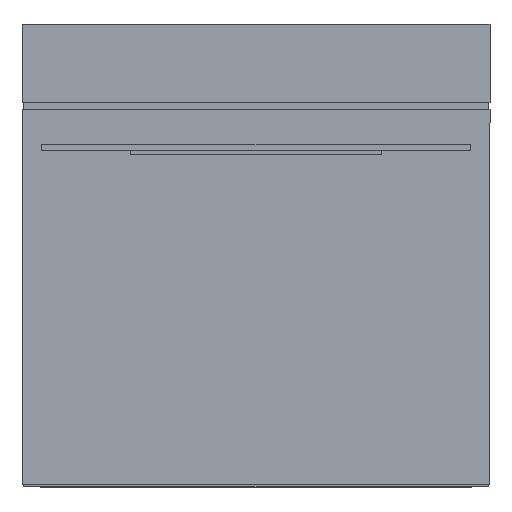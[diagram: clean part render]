
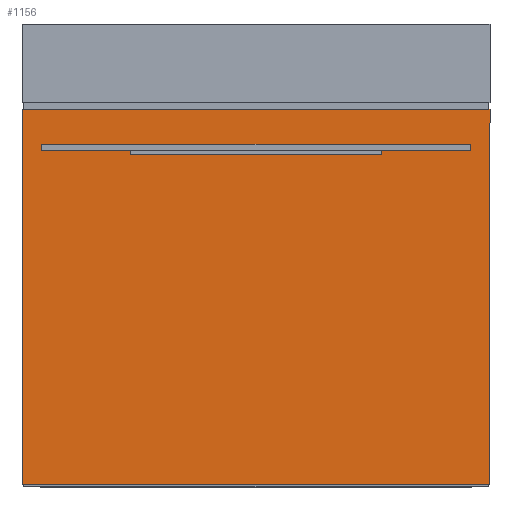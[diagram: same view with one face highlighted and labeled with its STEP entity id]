
A CAD part, front view. The second image highlights one B-rep face of the part: STEP entity #1156.
In plain terms, the highlighted planar face has unit normal (0, -1, 0).
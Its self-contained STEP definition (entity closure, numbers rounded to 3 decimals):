
#62=ORIENTED_EDGE('',*,*,#327,.T.);
#63=ORIENTED_EDGE('',*,*,#328,.T.);
#64=ORIENTED_EDGE('',*,*,#329,.F.);
#65=ORIENTED_EDGE('',*,*,#330,.T.);
#66=ORIENTED_EDGE('',*,*,#331,.F.);
#67=ORIENTED_EDGE('',*,*,#320,.F.);
#68=ORIENTED_EDGE('',*,*,#323,.T.);
#69=ORIENTED_EDGE('',*,*,#326,.T.);
#320=EDGE_CURVE('',#455,#456,#549,.T.);
#323=EDGE_CURVE('',#455,#457,#552,.T.);
#326=EDGE_CURVE('',#457,#458,#555,.T.);
#327=EDGE_CURVE('',#459,#460,#556,.T.);
#328=EDGE_CURVE('',#460,#461,#557,.T.);
#329=EDGE_CURVE('',#462,#461,#558,.T.);
#330=EDGE_CURVE('',#462,#459,#559,.T.);
#331=EDGE_CURVE('',#456,#458,#560,.T.);
#455=VERTEX_POINT('',#1562);
#456=VERTEX_POINT('',#1563);
#457=VERTEX_POINT('',#1568);
#458=VERTEX_POINT('',#1572);
#459=VERTEX_POINT('',#1576);
#460=VERTEX_POINT('',#1577);
#461=VERTEX_POINT('',#1579);
#462=VERTEX_POINT('',#1581);
#549=LINE('',#1561,#669);
#552=LINE('',#1567,#672);
#555=LINE('',#1573,#675);
#556=LINE('',#1575,#676);
#557=LINE('',#1578,#677);
#558=LINE('',#1580,#678);
#559=LINE('',#1582,#679);
#560=LINE('',#1583,#680);
#669=VECTOR('',#1298,1000.);
#672=VECTOR('',#1303,1000.);
#675=VECTOR('',#1308,1000.);
#676=VECTOR('',#1311,1000.);
#677=VECTOR('',#1312,1000.);
#678=VECTOR('',#1313,1000.);
#679=VECTOR('',#1314,1000.);
#680=VECTOR('',#1315,1000.);
#789=EDGE_LOOP('',(#62,#63,#64,#65));
#790=EDGE_LOOP('',(#66,#67,#68,#69));
#853=FACE_BOUND('',#789,.T.);
#854=FACE_BOUND('',#790,.T.);
#920=PLANE('',#1222);
#1156=ADVANCED_FACE('',(#853,#854),#920,.T.);
#1222=AXIS2_PLACEMENT_3D('',#1574,#1309,#1310);
#1298=DIRECTION('',(0.,0.,1.));
#1303=DIRECTION('',(1.,0.,0.));
#1308=DIRECTION('',(0.,0.,1.));
#1309=DIRECTION('',(0.,-1.,0.));
#1310=DIRECTION('',(0.,0.,-1.));
#1311=DIRECTION('',(-1.,0.,0.));
#1312=DIRECTION('',(0.,0.,1.));
#1313=DIRECTION('',(-1.,0.,0.));
#1314=DIRECTION('',(0.,0.,-1.));
#1315=DIRECTION('',(1.,0.,0.));
#1561=CARTESIAN_POINT('',(-298.5,-488.25,-1.5));
#1562=CARTESIAN_POINT('',(-298.5,-488.25,-241.));
#1563=CARTESIAN_POINT('',(-298.5,-488.25,238.));
#1567=CARTESIAN_POINT('',(0.,-488.25,-241.));
#1568=CARTESIAN_POINT('',(298.5,-488.25,-241.));
#1572=CARTESIAN_POINT('',(298.5,-488.25,238.));
#1573=CARTESIAN_POINT('',(298.5,-488.25,-241.));
#1574=CARTESIAN_POINT('',(0.,-488.25,-241.));
#1575=CARTESIAN_POINT('',(0.,-488.25,185.5));
#1576=CARTESIAN_POINT('',(273.,-488.25,185.5));
#1577=CARTESIAN_POINT('',(-273.,-488.25,185.5));
#1578=CARTESIAN_POINT('',(-273.,-488.25,185.5));
#1579=CARTESIAN_POINT('',(-273.,-488.25,193.5));
#1580=CARTESIAN_POINT('',(0.,-488.25,193.5));
#1581=CARTESIAN_POINT('',(273.,-488.25,193.5));
#1582=CARTESIAN_POINT('',(273.,-488.25,189.5));
#1583=CARTESIAN_POINT('',(0.,-488.25,238.));
